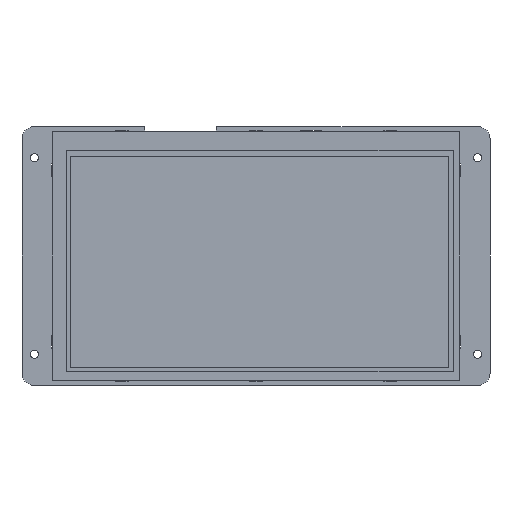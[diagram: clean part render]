
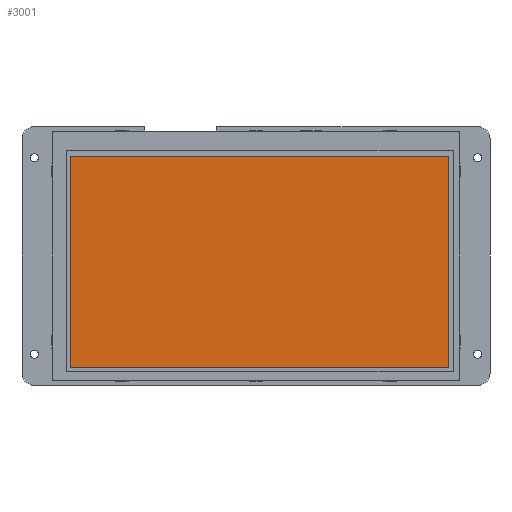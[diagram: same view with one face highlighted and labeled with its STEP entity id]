
A CAD part, front view. The second image highlights one B-rep face of the part: STEP entity #3001.
In plain terms, the highlighted planar face has unit normal (0, -1, 0) as drawn and (0, 0, 1) by its records, which use the part's own axes.
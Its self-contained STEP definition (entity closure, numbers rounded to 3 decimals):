
#2696=DIRECTION('',(-1.,0.,0.));
#2697=VECTOR('',#2696,154.08);
#2698=CARTESIAN_POINT('',(180.615,156.335,-0.1));
#2699=LINE('',#2698,#2697);
#2703=DIRECTION('',(0.,1.,0.));
#2704=VECTOR('',#2703,85.92);
#2705=CARTESIAN_POINT('',(180.615,70.415,-0.1));
#2706=LINE('',#2705,#2704);
#2710=DIRECTION('',(1.,0.,0.));
#2711=VECTOR('',#2710,154.08);
#2712=CARTESIAN_POINT('',(26.535,70.415,-0.1));
#2713=LINE('',#2712,#2711);
#2717=DIRECTION('',(0.,-1.,0.));
#2718=VECTOR('',#2717,85.92);
#2719=CARTESIAN_POINT('',(26.535,156.335,-0.1));
#2720=LINE('',#2719,#2718);
#2756=CARTESIAN_POINT('',(180.615,156.335,-0.1));
#2757=CARTESIAN_POINT('',(26.535,156.335,-0.1));
#2758=VERTEX_POINT('',#2756);
#2759=VERTEX_POINT('',#2757);
#2760=CARTESIAN_POINT('',(26.535,70.415,-0.1));
#2761=VERTEX_POINT('',#2760);
#2762=CARTESIAN_POINT('',(180.615,70.415,-0.1));
#2763=VERTEX_POINT('',#2762);
#2990=CARTESIAN_POINT('',(0.,0.,-0.1));
#2991=DIRECTION('',(0.,0.,1.));
#2992=DIRECTION('',(1.,0.,0.));
#2993=AXIS2_PLACEMENT_3D('',#2990,#2991,#2992);
#2994=PLANE('',#2993);
#2995=ORIENTED_EDGE('',*,*,#2942,.F.);
#2996=ORIENTED_EDGE('',*,*,#2957,.F.);
#2997=ORIENTED_EDGE('',*,*,#2971,.F.);
#2998=ORIENTED_EDGE('',*,*,#2984,.F.);
#2999=EDGE_LOOP('',(#2995,#2996,#2997,#2998));
#3000=FACE_OUTER_BOUND('',#2999,.F.);
#2942=EDGE_CURVE('',#2758,#2759,#2699,.T.);
#2957=EDGE_CURVE('',#2763,#2758,#2706,.T.);
#2971=EDGE_CURVE('',#2761,#2763,#2713,.T.);
#2984=EDGE_CURVE('',#2759,#2761,#2720,.T.);
#3001=ADVANCED_FACE('',(#3000),#2994,.T.);
